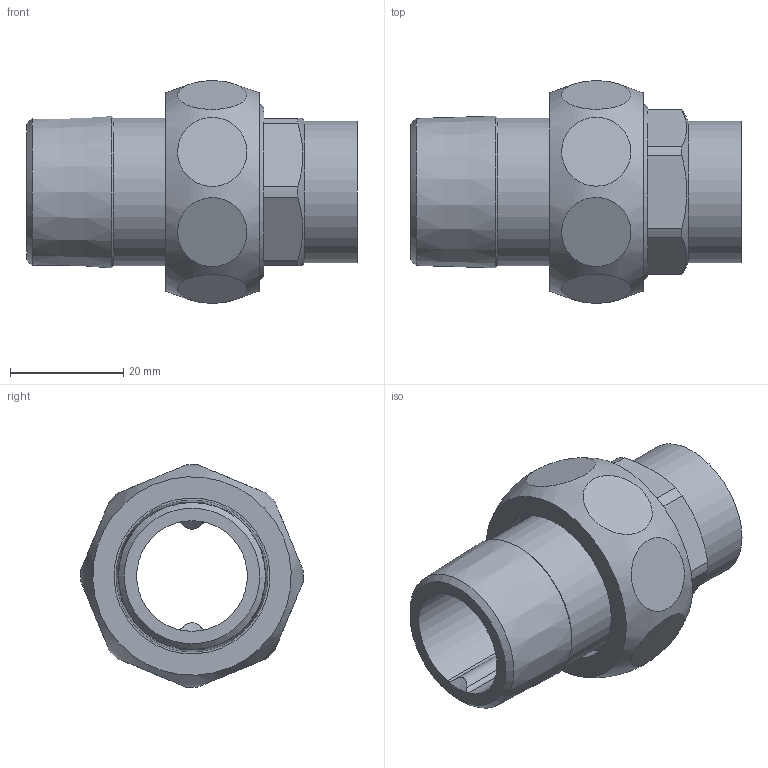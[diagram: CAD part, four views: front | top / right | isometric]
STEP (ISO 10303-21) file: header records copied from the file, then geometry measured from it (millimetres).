
FILE_DESCRIPTION((''),'2;1');
FILE_NAME('\\Lg50001\groups\SANHA Legnica\Engineering\Public\RYSUNKI\SANHA POLSKA\4341g\step\14341g_22-34(1).stp','2010-06-10T13:39:51',('pajchrowski'),(''),'Autodesk Inventor 2009','Autodesk Inventor 2009','');
FILE_SCHEMA(('AUTOMOTIVE_DESIGN { 1 0 10303 214 1 1 1 1 }'));
Length unit declared in the file: millimetre
Products named in the file (4): 14341g_22-34(1); 14382_34-1(2); 14374_1(1); 14380_22-1(1)
Assembly tree (3 placements, depth 2):
  14341g_22-34(1)
    14382_34-1(2)
    14374_1(1)
    14380_22-1(1)
Bounding box: 58.34 x 39.27 x 39.27 mm (x, y, z)
Volume: 21852.5 mm3; surface area: 14772.1 mm2
Topology: 3 solids, 3 shells, 62 faces, 131 edges, 87 vertices
Faces by surface type: plane 25, cylinder 23, cone 12, torus 1, bspline 1
Full cylindrical faces by diameter (mm): 21 x1, 22 x1, 25 x1, 26 x1, 27.5 x2, 29.5 x1, 30.291 x1, 33.249 x1
Entity records: 3063 total; most frequent: CARTESIAN_POINT 1723, DIRECTION 258, ORIENTED_EDGE 216, AXIS2_PLACEMENT_3D 116, EDGE_CURVE 108, EDGE_LOOP 100, VERTEX_POINT 84, FACE_OUTER_BOUND 62
